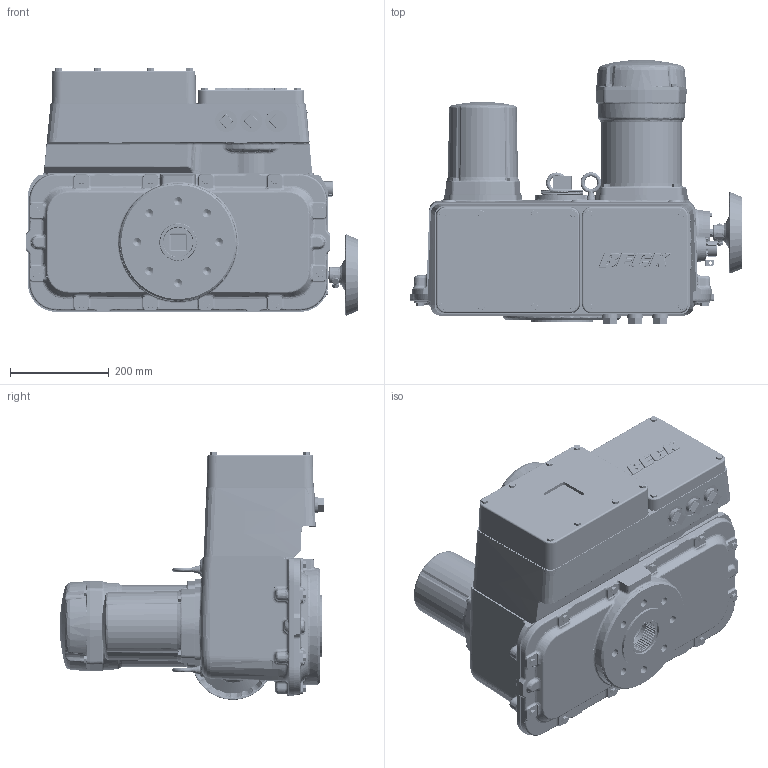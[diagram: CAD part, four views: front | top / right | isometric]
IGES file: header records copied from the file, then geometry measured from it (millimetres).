
Start section: SolidWorks IGES file using analytic representation for surfaces
Global section: file name: C:\Users\scc\Desktop\Desktop Temp\88-100 Actuator Shell (47-8810-00).IGS; native system: SolidWorks 2022; preprocessor: SolidWorks 2022; author: scc; date: 260513.082745; units: inch
Bounding box: 672.16 x 535.44 x 501.49 mm (x, y, z)
Surface area: 3754801.4 mm2 (no closed solid volume)
Topology: 0 solids, 0 shells, 15322 faces, 171937 edges, 171366 vertices
Faces by surface type: bspline 10815, revolution 4507
